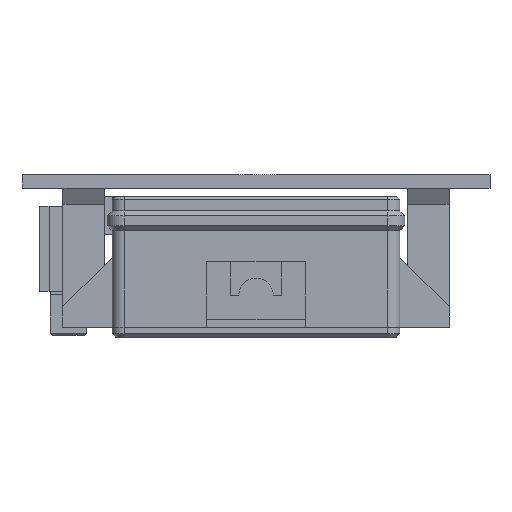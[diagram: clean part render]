
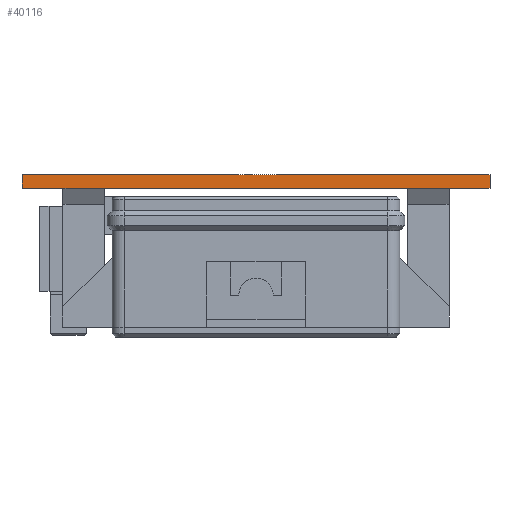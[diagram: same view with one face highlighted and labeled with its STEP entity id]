
A CAD part, front view. The second image highlights one B-rep face of the part: STEP entity #40116.
In plain terms, the highlighted planar face has unit normal (0, -1, 0).
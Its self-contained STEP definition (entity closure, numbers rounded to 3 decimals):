
#36871 = PLANE('',#36872);
#36872 = AXIS2_PLACEMENT_3D('',#36873,#36874,#36875);
#36873 = CARTESIAN_POINT('',(-57.15,42.65,40.));
#36874 = DIRECTION('',(0.,0.,-1.));
#36875 = DIRECTION('',(1.,0.,0.));
#36980 = VERTEX_POINT('',#36981);
#36981 = CARTESIAN_POINT('',(57.15,-42.65,40.));
#36995 = PLANE('',#36996);
#36996 = AXIS2_PLACEMENT_3D('',#36997,#36998,#36999);
#36997 = CARTESIAN_POINT('',(57.15,-42.65,40.));
#36998 = DIRECTION('',(1.,0.,0.));
#36999 = DIRECTION('',(-0.,1.,0.));
#37007 = EDGE_CURVE('',#36980,#37008,#37010,.T.);
#37008 = VERTEX_POINT('',#37009);
#37009 = CARTESIAN_POINT('',(-57.15,-42.65,40.));
#37010 = SURFACE_CURVE('',#37011,(#37015,#37022),.PCURVE_S1.);
#37011 = LINE('',#37012,#37013);
#37012 = CARTESIAN_POINT('',(57.15,-42.65,40.));
#37013 = VECTOR('',#37014,1.);
#37014 = DIRECTION('',(-1.,0.,0.));
#37015 = PCURVE('',#36871,#37016);
#37016 = DEFINITIONAL_REPRESENTATION('',(#37017),#37021);
#37017 = LINE('',#37018,#37019);
#37018 = CARTESIAN_POINT('',(114.3,85.3));
#37019 = VECTOR('',#37020,1.);
#37020 = DIRECTION('',(-1.,0.));
#37021 = ( GEOMETRIC_REPRESENTATION_CONTEXT(2) 
PARAMETRIC_REPRESENTATION_CONTEXT() REPRESENTATION_CONTEXT('2D SPACE',''
  ) );
#37022 = PCURVE('',#37023,#37028);
#37023 = PLANE('',#37024);
#37024 = AXIS2_PLACEMENT_3D('',#37025,#37026,#37027);
#37025 = CARTESIAN_POINT('',(-57.15,-42.65,40.));
#37026 = DIRECTION('',(0.,-1.,0.));
#37027 = DIRECTION('',(1.,0.,0.));
#37028 = DEFINITIONAL_REPRESENTATION('',(#37029),#37033);
#37029 = LINE('',#37030,#37031);
#37030 = CARTESIAN_POINT('',(114.3,0.));
#37031 = VECTOR('',#37032,1.);
#37032 = DIRECTION('',(-1.,0.));
#37033 = ( GEOMETRIC_REPRESENTATION_CONTEXT(2) 
PARAMETRIC_REPRESENTATION_CONTEXT() REPRESENTATION_CONTEXT('2D SPACE',''
  ) );
#37051 = PLANE('',#37052);
#37052 = AXIS2_PLACEMENT_3D('',#37053,#37054,#37055);
#37053 = CARTESIAN_POINT('',(-57.15,-28.65,40.));
#37054 = DIRECTION('',(-1.,0.,0.));
#37055 = DIRECTION('',(0.,-1.,0.));
#38107 = PLANE('',#38108);
#38108 = AXIS2_PLACEMENT_3D('',#38109,#38110,#38111);
#38109 = CARTESIAN_POINT('',(57.15,42.65,43.2));
#38110 = DIRECTION('',(0.,0.,1.));
#38111 = DIRECTION('',(-1.,0.,0.));
#38242 = VERTEX_POINT('',#38243);
#38243 = CARTESIAN_POINT('',(-57.15,-42.65,43.2));
#38264 = EDGE_CURVE('',#38265,#38242,#38267,.T.);
#38265 = VERTEX_POINT('',#38266);
#38266 = CARTESIAN_POINT('',(57.15,-42.65,43.2));
#38267 = SURFACE_CURVE('',#38268,(#38272,#38279),.PCURVE_S1.);
#38268 = LINE('',#38269,#38270);
#38269 = CARTESIAN_POINT('',(57.15,-42.65,43.2));
#38270 = VECTOR('',#38271,1.);
#38271 = DIRECTION('',(-1.,0.,0.));
#38272 = PCURVE('',#38107,#38273);
#38273 = DEFINITIONAL_REPRESENTATION('',(#38274),#38278);
#38274 = LINE('',#38275,#38276);
#38275 = CARTESIAN_POINT('',(0.,85.3));
#38276 = VECTOR('',#38277,1.);
#38277 = DIRECTION('',(1.,0.));
#38278 = ( GEOMETRIC_REPRESENTATION_CONTEXT(2) 
PARAMETRIC_REPRESENTATION_CONTEXT() REPRESENTATION_CONTEXT('2D SPACE',''
  ) );
#38279 = PCURVE('',#37023,#38280);
#38280 = DEFINITIONAL_REPRESENTATION('',(#38281),#38285);
#38281 = LINE('',#38282,#38283);
#38282 = CARTESIAN_POINT('',(114.3,3.2));
#38283 = VECTOR('',#38284,1.);
#38284 = DIRECTION('',(-1.,0.));
#38285 = ( GEOMETRIC_REPRESENTATION_CONTEXT(2) 
PARAMETRIC_REPRESENTATION_CONTEXT() REPRESENTATION_CONTEXT('2D SPACE',''
  ) );
#40116 = ADVANCED_FACE('',(#40117),#37023,.T.);
#40117 = FACE_BOUND('',#40118,.T.);
#40118 = EDGE_LOOP('',(#40119,#40120,#40141,#40142));
#40119 = ORIENTED_EDGE('',*,*,#37007,.F.);
#40120 = ORIENTED_EDGE('',*,*,#40121,.F.);
#40121 = EDGE_CURVE('',#38265,#36980,#40122,.T.);
#40122 = SURFACE_CURVE('',#40123,(#40127,#40134),.PCURVE_S1.);
#40123 = LINE('',#40124,#40125);
#40124 = CARTESIAN_POINT('',(57.15,-42.65,43.2));
#40125 = VECTOR('',#40126,1.);
#40126 = DIRECTION('',(0.,0.,-1.));
#40127 = PCURVE('',#37023,#40128);
#40128 = DEFINITIONAL_REPRESENTATION('',(#40129),#40133);
#40129 = LINE('',#40130,#40131);
#40130 = CARTESIAN_POINT('',(114.3,3.2));
#40131 = VECTOR('',#40132,1.);
#40132 = DIRECTION('',(0.,-1.));
#40133 = ( GEOMETRIC_REPRESENTATION_CONTEXT(2) 
PARAMETRIC_REPRESENTATION_CONTEXT() REPRESENTATION_CONTEXT('2D SPACE',''
  ) );
#40134 = PCURVE('',#36995,#40135);
#40135 = DEFINITIONAL_REPRESENTATION('',(#40136),#40140);
#40136 = LINE('',#40137,#40138);
#40137 = CARTESIAN_POINT('',(0.,3.2));
#40138 = VECTOR('',#40139,1.);
#40139 = DIRECTION('',(0.,-1.));
#40140 = ( GEOMETRIC_REPRESENTATION_CONTEXT(2) 
PARAMETRIC_REPRESENTATION_CONTEXT() REPRESENTATION_CONTEXT('2D SPACE',''
  ) );
#40141 = ORIENTED_EDGE('',*,*,#38264,.T.);
#40142 = ORIENTED_EDGE('',*,*,#40143,.F.);
#40143 = EDGE_CURVE('',#37008,#38242,#40144,.T.);
#40144 = SURFACE_CURVE('',#40145,(#40149,#40156),.PCURVE_S1.);
#40145 = LINE('',#40146,#40147);
#40146 = CARTESIAN_POINT('',(-57.15,-42.65,40.));
#40147 = VECTOR('',#40148,1.);
#40148 = DIRECTION('',(0.,0.,1.));
#40149 = PCURVE('',#37023,#40150);
#40150 = DEFINITIONAL_REPRESENTATION('',(#40151),#40155);
#40151 = LINE('',#40152,#40153);
#40152 = CARTESIAN_POINT('',(0.,0.));
#40153 = VECTOR('',#40154,1.);
#40154 = DIRECTION('',(0.,1.));
#40155 = ( GEOMETRIC_REPRESENTATION_CONTEXT(2) 
PARAMETRIC_REPRESENTATION_CONTEXT() REPRESENTATION_CONTEXT('2D SPACE',''
  ) );
#40156 = PCURVE('',#37051,#40157);
#40157 = DEFINITIONAL_REPRESENTATION('',(#40158),#40162);
#40158 = LINE('',#40159,#40160);
#40159 = CARTESIAN_POINT('',(14.,0.));
#40160 = VECTOR('',#40161,1.);
#40161 = DIRECTION('',(0.,1.));
#40162 = ( GEOMETRIC_REPRESENTATION_CONTEXT(2) 
PARAMETRIC_REPRESENTATION_CONTEXT() REPRESENTATION_CONTEXT('2D SPACE',''
  ) );
